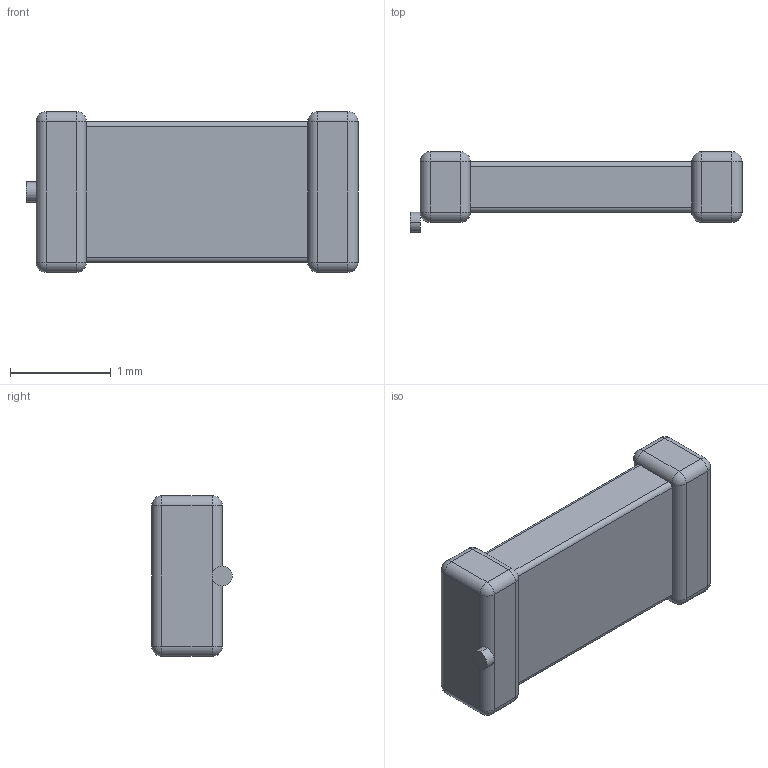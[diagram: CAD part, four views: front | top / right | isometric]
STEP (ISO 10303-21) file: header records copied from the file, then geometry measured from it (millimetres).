
FILE_DESCRIPTION (( 'STEP AP214' ), '1' );
FILE_NAME ( 'CAPPC320X160X70L50.STEP', '2021-10-06T06:49:12', ( '' ), ( '' ), '', '©2017 PCB Libraries, Inc.', '' );
FILE_SCHEMA (( 'AUTOMOTIVE_DESIGN' ));
Length unit declared in the file: millimetre
Products named in the file (1): CAPPC320X160X70L50
Bounding box: 3.3 x 0.8 x 1.6 mm (x, y, z)
Volume: 2.6 mm3; surface area: 17.8 mm2
Topology: 4 solids, 4 shells, 66 faces, 144 edges, 69 vertices
Faces by surface type: cylinder 30, plane 20, sphere 16
Entity records: 1859 total; most frequent: DIRECTION 318, CARTESIAN_POINT 260, ORIENTED_EDGE 252, AXIS2_PLACEMENT_3D 126, EDGE_CURVE 126, STYLED_ITEM 69, PRESENTATION_LAYER_ASSIGNMENT 69, MECHANICAL_DESIGN_GEOMETRIC_PRESENTATION_REPRESENTATION 69
